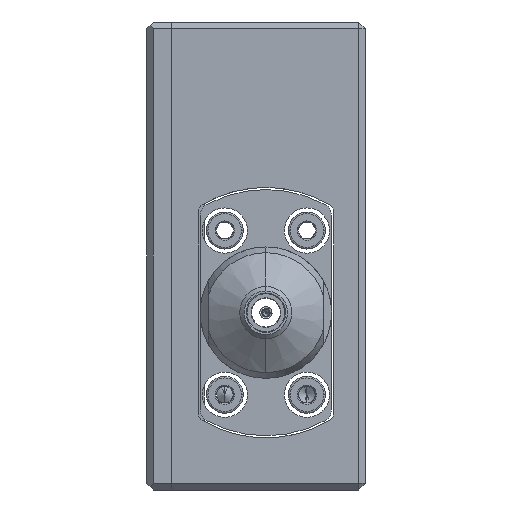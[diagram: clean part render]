
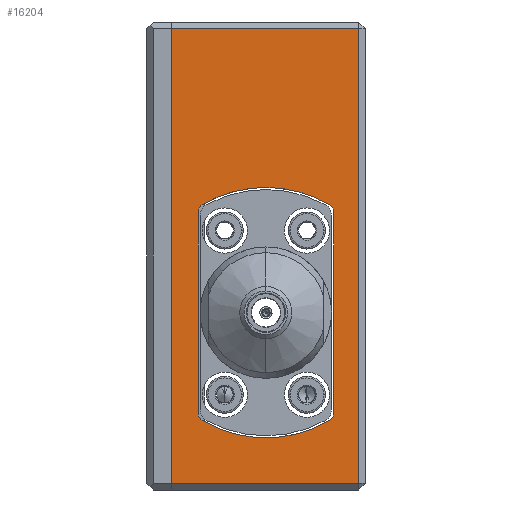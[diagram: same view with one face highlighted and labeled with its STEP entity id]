
A CAD part, left-side view. The second image highlights one B-rep face of the part: STEP entity #16204.
In plain terms, the highlighted planar face has unit normal (-1, 0, 0).
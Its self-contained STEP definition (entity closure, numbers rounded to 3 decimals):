
#194 = DIRECTION ( 'NONE',  ( 0., 0., 1. ) ) ;
#268 = CARTESIAN_POINT ( 'NONE',  ( -20., -19.75, -26.668 ) ) ;
#528 = CIRCLE ( 'NONE', #17855, 1. ) ;
#548 = VERTEX_POINT ( 'NONE', #22232 ) ;
#636 = CIRCLE ( 'NONE', #12240, 15.25 ) ;
#695 = VECTOR ( 'NONE', #21694, 1000. ) ;
#728 = DIRECTION ( 'NONE',  ( 0., 0., 1. ) ) ;
#767 = VECTOR ( 'NONE', #16579, 1000. ) ;
#885 = LINE ( 'NONE', #16649, #767 ) ;
#957 = LINE ( 'NONE', #22260, #695 ) ;
#1070 = VECTOR ( 'NONE', #728, 1000. ) ;
#1192 = CARTESIAN_POINT ( 'NONE',  ( -20., -22.8, 21. ) ) ;
#1294 = LINE ( 'NONE', #1192, #1070 ) ;
#1801 = CARTESIAN_POINT ( 'NONE',  ( -20., 0., -35.2 ) ) ;
#2590 = VERTEX_POINT ( 'NONE', #20795 ) ;
#3216 = VERTEX_POINT ( 'NONE', #12457 ) ;
#3229 = ORIENTED_EDGE ( 'NONE', *, *, #4313, .F. ) ;
#3305 = VERTEX_POINT ( 'NONE', #12066 ) ;
#3901 = DIRECTION ( 'NONE',  ( 0., 0., 1. ) ) ;
#3909 = DIRECTION ( 'NONE',  ( -1., 0., 0. ) ) ;
#3936 = CARTESIAN_POINT ( 'NONE',  ( -20., -11.5, -14.4 ) ) ;
#4147 = EDGE_CURVE ( 'NONE', #548, #7623, #1294, .T. ) ;
#4246 = EDGE_CURVE ( 'NONE', #5793, #4534, #957, .T. ) ;
#4313 = EDGE_CURVE ( 'NONE', #18396, #3216, #528, .T. ) ;
#4534 = VERTEX_POINT ( 'NONE', #23746 ) ;
#4555 = ORIENTED_EDGE ( 'NONE', *, *, #7151, .F. ) ;
#4799 = ORIENTED_EDGE ( 'NONE', *, *, #4246, .F. ) ;
#4860 = DIRECTION ( 'NONE',  ( -1., 0., 0. ) ) ;
#5102 = ORIENTED_EDGE ( 'NONE', *, *, #11699, .F. ) ;
#5252 = VERTEX_POINT ( 'NONE', #10957 ) ;
#5662 = EDGE_LOOP ( 'NONE', ( #10112, #20732, #4799, #7552 ) ) ;
#5793 = VERTEX_POINT ( 'NONE', #1801 ) ;
#6000 = EDGE_CURVE ( 'NONE', #5252, #3305, #18475, .T. ) ;
#6934 = EDGE_CURVE ( 'NONE', #15109, #5252, #15514, .T. ) ;
#7151 = EDGE_CURVE ( 'NONE', #12372, #19055, #15085, .T. ) ;
#7253 = ORIENTED_EDGE ( 'NONE', *, *, #6934, .F. ) ;
#7428 = EDGE_CURVE ( 'NONE', #5793, #548, #13868, .T. ) ;
#7444 = DIRECTION ( 'NONE',  ( 0., 0., -1. ) ) ;
#7450 = DIRECTION ( 'NONE',  ( -1., 0., 0. ) ) ;
#7552 = ORIENTED_EDGE ( 'NONE', *, *, #7428, .T. ) ;
#7623 = VERTEX_POINT ( 'NONE', #17774 ) ;
#7729 = CARTESIAN_POINT ( 'NONE',  ( -20., -4.25, -2.132 ) ) ;
#7863 = VERTEX_POINT ( 'NONE', #13895 ) ;
#8507 = EDGE_CURVE ( 'NONE', #7863, #18396, #10720, .T. ) ;
#8535 = EDGE_CURVE ( 'NONE', #2590, #7863, #10717, .T. ) ;
#9008 = VECTOR ( 'NONE', #16803, 1000. ) ;
#9148 = LINE ( 'NONE', #16250, #9008 ) ;
#9591 = AXIS2_PLACEMENT_3D ( 'NONE', #12727, #12100, #11944 ) ;
#10112 = ORIENTED_EDGE ( 'NONE', *, *, #4147, .T. ) ;
#10168 = CARTESIAN_POINT ( 'NONE',  ( -20., -3.25, -26.668 ) ) ;
#10595 = AXIS2_PLACEMENT_3D ( 'NONE', #19557, #19432, #19359 ) ;
#10641 = ORIENTED_EDGE ( 'NONE', *, *, #8535, .F. ) ;
#10717 = CIRCLE ( 'NONE', #14252, 1. ) ;
#10720 = LINE ( 'NONE', #268, #10766 ) ;
#10721 = FACE_BOUND ( 'NONE', #18128, .T. ) ;
#10766 = VECTOR ( 'NONE', #194, 1000. ) ;
#10829 = FACE_OUTER_BOUND ( 'NONE', #5662, .T. ) ;
#10957 = CARTESIAN_POINT ( 'NONE',  ( -20., -3.741, -1.271 ) ) ;
#11095 = ORIENTED_EDGE ( 'NONE', *, *, #8507, .F. ) ;
#11630 = EDGE_CURVE ( 'NONE', #7623, #4534, #885, .T. ) ;
#11699 = EDGE_CURVE ( 'NONE', #3216, #15109, #636, .T. ) ;
#11944 = DIRECTION ( 'NONE',  ( 0., 0., 1. ) ) ;
#12066 = CARTESIAN_POINT ( 'NONE',  ( -20., -3.25, -2.132 ) ) ;
#12100 = DIRECTION ( 'NONE',  ( -1., 0., 0. ) ) ;
#12240 = AXIS2_PLACEMENT_3D ( 'NONE', #16037, #15959, #16018 ) ;
#12372 = VERTEX_POINT ( 'NONE', #10168 ) ;
#12457 = CARTESIAN_POINT ( 'NONE',  ( -20., -19.259, -1.271 ) ) ;
#12727 = CARTESIAN_POINT ( 'NONE',  ( -20., -23.6, -36. ) ) ;
#13518 = PLANE ( 'NONE',  #9591 ) ;
#13791 = VECTOR ( 'NONE', #22221, 1000. ) ;
#13868 = LINE ( 'NONE', #22356, #13791 ) ;
#13895 = CARTESIAN_POINT ( 'NONE',  ( -20., -19.75, -26.668 ) ) ;
#14252 = AXIS2_PLACEMENT_3D ( 'NONE', #18553, #18490, #18319 ) ;
#14618 = CARTESIAN_POINT ( 'NONE',  ( -20., -3.741, -27.529 ) ) ;
#14676 = EDGE_CURVE ( 'NONE', #19055, #2590, #15161, .T. ) ;
#15056 = AXIS2_PLACEMENT_3D ( 'NONE', #15890, #21111, #20955 ) ;
#15085 = CIRCLE ( 'NONE', #15056, 1. ) ;
#15109 = VERTEX_POINT ( 'NONE', #19711 ) ;
#15161 = CIRCLE ( 'NONE', #10595, 15.25 ) ;
#15220 = AXIS2_PLACEMENT_3D ( 'NONE', #3936, #3909, #3901 ) ;
#15514 = CIRCLE ( 'NONE', #15220, 15.25 ) ;
#15890 = CARTESIAN_POINT ( 'NONE',  ( -20., -4.25, -26.668 ) ) ;
#15959 = DIRECTION ( 'NONE',  ( -1., 0., 0. ) ) ;
#16018 = DIRECTION ( 'NONE',  ( 0., 0., 1. ) ) ;
#16037 = CARTESIAN_POINT ( 'NONE',  ( -20., -11.5, -14.4 ) ) ;
#16051 = DIRECTION ( 'NONE',  ( 0., 0., -1. ) ) ;
#16098 = AXIS2_PLACEMENT_3D ( 'NONE', #7729, #7450, #7444 ) ;
#16122 = CARTESIAN_POINT ( 'NONE',  ( -20., -18.75, -2.132 ) ) ;
#16204 = ADVANCED_FACE ( 'NONE', ( #10721, #10829 ), #13518, .T. ) ;
#16250 = CARTESIAN_POINT ( 'NONE',  ( -20., -3.25, -26.668 ) ) ;
#16579 = DIRECTION ( 'NONE',  ( 0., 1., 0. ) ) ;
#16649 = CARTESIAN_POINT ( 'NONE',  ( -20., -23.6, 20.2 ) ) ;
#16782 = EDGE_CURVE ( 'NONE', #3305, #12372, #9148, .T. ) ;
#16803 = DIRECTION ( 'NONE',  ( 0., 0., -1. ) ) ;
#17717 = ORIENTED_EDGE ( 'NONE', *, *, #16782, .F. ) ;
#17774 = CARTESIAN_POINT ( 'NONE',  ( -20., -22.8, 20.2 ) ) ;
#17855 = AXIS2_PLACEMENT_3D ( 'NONE', #16122, #4860, #16051 ) ;
#18128 = EDGE_LOOP ( 'NONE', ( #10641, #20625, #4555, #17717, #23588, #7253, #5102, #3229, #11095 ) ) ;
#18319 = DIRECTION ( 'NONE',  ( 0., 0., -1. ) ) ;
#18396 = VERTEX_POINT ( 'NONE', #20194 ) ;
#18475 = CIRCLE ( 'NONE', #16098, 1. ) ;
#18490 = DIRECTION ( 'NONE',  ( -1., 0., 0. ) ) ;
#18553 = CARTESIAN_POINT ( 'NONE',  ( -20., -18.75, -26.668 ) ) ;
#19055 = VERTEX_POINT ( 'NONE', #14618 ) ;
#19359 = DIRECTION ( 'NONE',  ( 0., 0., 1. ) ) ;
#19432 = DIRECTION ( 'NONE',  ( -1., 0., 0. ) ) ;
#19557 = CARTESIAN_POINT ( 'NONE',  ( -20., -11.5, -14.4 ) ) ;
#19711 = CARTESIAN_POINT ( 'NONE',  ( -20., -11.5, 0.85 ) ) ;
#20194 = CARTESIAN_POINT ( 'NONE',  ( -20., -19.75, -2.132 ) ) ;
#20625 = ORIENTED_EDGE ( 'NONE', *, *, #14676, .F. ) ;
#20732 = ORIENTED_EDGE ( 'NONE', *, *, #11630, .T. ) ;
#20795 = CARTESIAN_POINT ( 'NONE',  ( -20., -19.259, -27.529 ) ) ;
#20955 = DIRECTION ( 'NONE',  ( 0., 0., 1. ) ) ;
#21111 = DIRECTION ( 'NONE',  ( -1., 0., 0. ) ) ;
#21694 = DIRECTION ( 'NONE',  ( 0., 0., 1. ) ) ;
#22221 = DIRECTION ( 'NONE',  ( 0., -1., 0. ) ) ;
#22232 = CARTESIAN_POINT ( 'NONE',  ( -20., -22.8, -35.2 ) ) ;
#22260 = CARTESIAN_POINT ( 'NONE',  ( -20., 0., -36. ) ) ;
#22356 = CARTESIAN_POINT ( 'NONE',  ( -20., -23.6, -35.2 ) ) ;
#23588 = ORIENTED_EDGE ( 'NONE', *, *, #6000, .F. ) ;
#23746 = CARTESIAN_POINT ( 'NONE',  ( -20., 0., 20.2 ) ) ;
